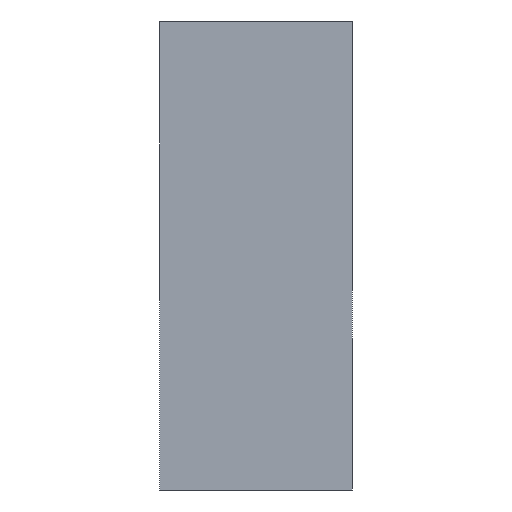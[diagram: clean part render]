
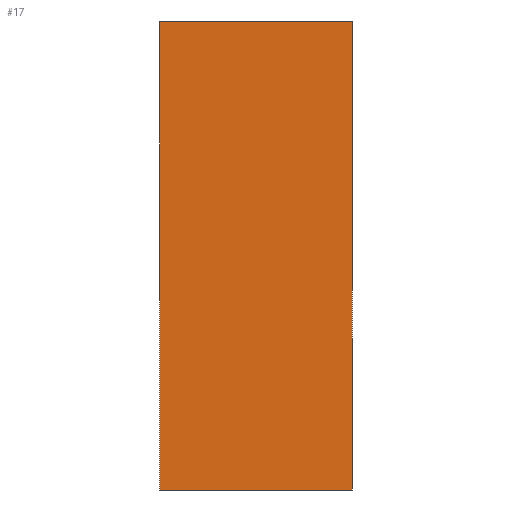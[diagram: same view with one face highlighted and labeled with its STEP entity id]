
A CAD part, left-side view. The second image highlights one B-rep face of the part: STEP entity #17.
In plain terms, the highlighted planar face has unit normal (-1, 0, 0).
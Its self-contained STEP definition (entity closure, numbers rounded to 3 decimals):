
#17 = ADVANCED_FACE('',(#18),#32,.F.);
#18 = FACE_BOUND('',#19,.F.);
#19 = EDGE_LOOP('',(#20,#55,#81,#109));
#20 = ORIENTED_EDGE('',*,*,#21,.F.);
#21 = EDGE_CURVE('',#22,#24,#26,.T.);
#22 = VERTEX_POINT('',#23);
#23 = CARTESIAN_POINT('',(-11.,0.25,18.8));
#24 = VERTEX_POINT('',#25);
#25 = CARTESIAN_POINT('',(-11.,8.,18.8));
#26 = SURFACE_CURVE('',#27,(#31,#43),.PCURVE_S1.);
#27 = LINE('',#28,#29);
#28 = CARTESIAN_POINT('',(-11.,-8.,18.8));
#29 = VECTOR('',#30,1.);
#30 = DIRECTION('',(-0.,1.,0.));
#31 = PCURVE('',#32,#37);
#32 = PLANE('',#33);
#33 = AXIS2_PLACEMENT_3D('',#34,#35,#36);
#34 = CARTESIAN_POINT('',(-11.,-8.,0.));
#35 = DIRECTION('',(1.,0.,-0.));
#36 = DIRECTION('',(0.,0.,1.));
#37 = DEFINITIONAL_REPRESENTATION('',(#38),#42);
#38 = LINE('',#39,#40);
#39 = CARTESIAN_POINT('',(18.8,0.));
#40 = VECTOR('',#41,1.);
#41 = DIRECTION('',(0.,-1.));
#42 = ( GEOMETRIC_REPRESENTATION_CONTEXT(2) 
PARAMETRIC_REPRESENTATION_CONTEXT() REPRESENTATION_CONTEXT('2D SPACE',''
  ) );
#43 = PCURVE('',#44,#49);
#44 = PLANE('',#45);
#45 = AXIS2_PLACEMENT_3D('',#46,#47,#48);
#46 = CARTESIAN_POINT('',(-11.,-8.,18.8));
#47 = DIRECTION('',(0.,0.,1.));
#48 = DIRECTION('',(1.,0.,-0.));
#49 = DEFINITIONAL_REPRESENTATION('',(#50),#54);
#50 = LINE('',#51,#52);
#51 = CARTESIAN_POINT('',(0.,0.));
#52 = VECTOR('',#53,1.);
#53 = DIRECTION('',(0.,1.));
#54 = ( GEOMETRIC_REPRESENTATION_CONTEXT(2) 
PARAMETRIC_REPRESENTATION_CONTEXT() REPRESENTATION_CONTEXT('2D SPACE',''
  ) );
#55 = ORIENTED_EDGE('',*,*,#56,.F.);
#56 = EDGE_CURVE('',#57,#22,#59,.T.);
#57 = VERTEX_POINT('',#58);
#58 = CARTESIAN_POINT('',(-11.,0.25,0.));
#59 = SURFACE_CURVE('',#60,(#64,#70),.PCURVE_S1.);
#60 = LINE('',#61,#62);
#61 = CARTESIAN_POINT('',(-11.,0.25,-0.3));
#62 = VECTOR('',#63,1.);
#63 = DIRECTION('',(0.,0.,1.));
#64 = PCURVE('',#32,#65);
#65 = DEFINITIONAL_REPRESENTATION('',(#66),#69);
#66 = B_SPLINE_CURVE_WITH_KNOTS('',1,(#67,#68),.UNSPECIFIED.,.F.,.F.,(2,
    2),(0.3,19.1),.PIECEWISE_BEZIER_KNOTS.);
#67 = CARTESIAN_POINT('',(0.,-8.25));
#68 = CARTESIAN_POINT('',(18.8,-8.25));
#69 = ( GEOMETRIC_REPRESENTATION_CONTEXT(2) 
PARAMETRIC_REPRESENTATION_CONTEXT() REPRESENTATION_CONTEXT('2D SPACE',''
  ) );
#70 = PCURVE('',#71,#76);
#71 = PLANE('',#72);
#72 = AXIS2_PLACEMENT_3D('',#73,#74,#75);
#73 = CARTESIAN_POINT('',(-12.,0.25,-0.6));
#74 = DIRECTION('',(-0.,1.,0.));
#75 = DIRECTION('',(0.,0.,1.));
#76 = DEFINITIONAL_REPRESENTATION('',(#77),#80);
#77 = B_SPLINE_CURVE_WITH_KNOTS('',1,(#78,#79),.UNSPECIFIED.,.F.,.F.,(2,
    2),(0.3,19.1),.PIECEWISE_BEZIER_KNOTS.);
#78 = CARTESIAN_POINT('',(0.6,1.));
#79 = CARTESIAN_POINT('',(19.4,1.));
#80 = ( GEOMETRIC_REPRESENTATION_CONTEXT(2) 
PARAMETRIC_REPRESENTATION_CONTEXT() REPRESENTATION_CONTEXT('2D SPACE',''
  ) );
#81 = ORIENTED_EDGE('',*,*,#82,.T.);
#82 = EDGE_CURVE('',#57,#83,#85,.T.);
#83 = VERTEX_POINT('',#84);
#84 = CARTESIAN_POINT('',(-11.,8.,0.));
#85 = SURFACE_CURVE('',#86,(#90,#97),.PCURVE_S1.);
#86 = LINE('',#87,#88);
#87 = CARTESIAN_POINT('',(-11.,-8.,0.));
#88 = VECTOR('',#89,1.);
#89 = DIRECTION('',(-0.,1.,0.));
#90 = PCURVE('',#32,#91);
#91 = DEFINITIONAL_REPRESENTATION('',(#92),#96);
#92 = LINE('',#93,#94);
#93 = CARTESIAN_POINT('',(0.,0.));
#94 = VECTOR('',#95,1.);
#95 = DIRECTION('',(0.,-1.));
#96 = ( GEOMETRIC_REPRESENTATION_CONTEXT(2) 
PARAMETRIC_REPRESENTATION_CONTEXT() REPRESENTATION_CONTEXT('2D SPACE',''
  ) );
#97 = PCURVE('',#98,#103);
#98 = PLANE('',#99);
#99 = AXIS2_PLACEMENT_3D('',#100,#101,#102);
#100 = CARTESIAN_POINT('',(-11.,-8.,0.));
#101 = DIRECTION('',(0.,0.,1.));
#102 = DIRECTION('',(1.,0.,-0.));
#103 = DEFINITIONAL_REPRESENTATION('',(#104),#108);
#104 = LINE('',#105,#106);
#105 = CARTESIAN_POINT('',(0.,0.));
#106 = VECTOR('',#107,1.);
#107 = DIRECTION('',(0.,1.));
#108 = ( GEOMETRIC_REPRESENTATION_CONTEXT(2) 
PARAMETRIC_REPRESENTATION_CONTEXT() REPRESENTATION_CONTEXT('2D SPACE',''
  ) );
#109 = ORIENTED_EDGE('',*,*,#110,.T.);
#110 = EDGE_CURVE('',#83,#24,#111,.T.);
#111 = SURFACE_CURVE('',#112,(#116,#123),.PCURVE_S1.);
#112 = LINE('',#113,#114);
#113 = CARTESIAN_POINT('',(-11.,8.,0.));
#114 = VECTOR('',#115,1.);
#115 = DIRECTION('',(0.,0.,1.));
#116 = PCURVE('',#32,#117);
#117 = DEFINITIONAL_REPRESENTATION('',(#118),#122);
#118 = LINE('',#119,#120);
#119 = CARTESIAN_POINT('',(0.,-16.));
#120 = VECTOR('',#121,1.);
#121 = DIRECTION('',(1.,0.));
#122 = ( GEOMETRIC_REPRESENTATION_CONTEXT(2) 
PARAMETRIC_REPRESENTATION_CONTEXT() REPRESENTATION_CONTEXT('2D SPACE',''
  ) );
#123 = PCURVE('',#124,#129);
#124 = PLANE('',#125);
#125 = AXIS2_PLACEMENT_3D('',#126,#127,#128);
#126 = CARTESIAN_POINT('',(-11.,8.,0.));
#127 = DIRECTION('',(-0.,1.,0.));
#128 = DIRECTION('',(0.,0.,1.));
#129 = DEFINITIONAL_REPRESENTATION('',(#130),#134);
#130 = LINE('',#131,#132);
#131 = CARTESIAN_POINT('',(0.,0.));
#132 = VECTOR('',#133,1.);
#133 = DIRECTION('',(1.,0.));
#134 = ( GEOMETRIC_REPRESENTATION_CONTEXT(2) 
PARAMETRIC_REPRESENTATION_CONTEXT() REPRESENTATION_CONTEXT('2D SPACE',''
  ) );
